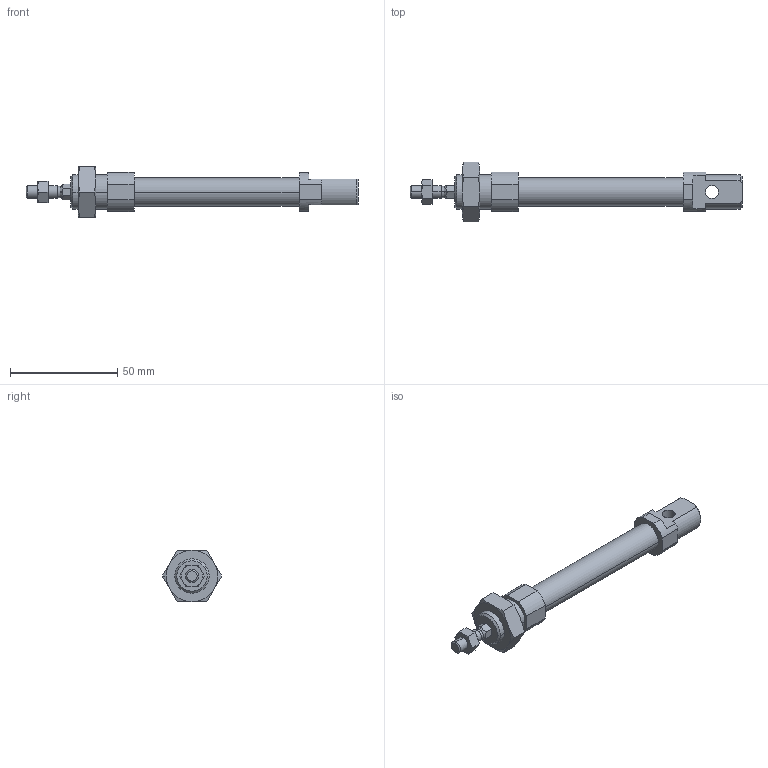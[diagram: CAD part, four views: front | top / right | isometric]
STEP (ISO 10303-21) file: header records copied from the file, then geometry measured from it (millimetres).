
FILE_DESCRIPTION (( 'STEP AP203' ), '1' );
FILE_NAME ('CSMK12-50.STEP', '2020-04-02T10:41:50', ( '' ), ( '' ), 'SwSTEP 2.0', 'SolidWorks 2019', '' );
FILE_SCHEMA (( 'CONFIG_CONTROL_DESIGN' ));
Length unit declared in the file: millimetre
Products named in the file (1): CSMK12-50
Bounding box: 155 x 27.71 x 24 mm (x, y, z)
Volume: 22184.8 mm3; surface area: 14787.1 mm2
Topology: 4 solids, 4 shells, 135 faces, 310 edges, 189 vertices
Faces by surface type: plane 53, cone 50, cylinder 32
Entity records: 4287 total; most frequent: CARTESIAN_POINT 1185, DIRECTION 636, ORIENTED_EDGE 616, EDGE_CURVE 308, AXIS2_PLACEMENT_3D 250, VERTEX_POINT 189, EDGE_LOOP 151, LINE 136
